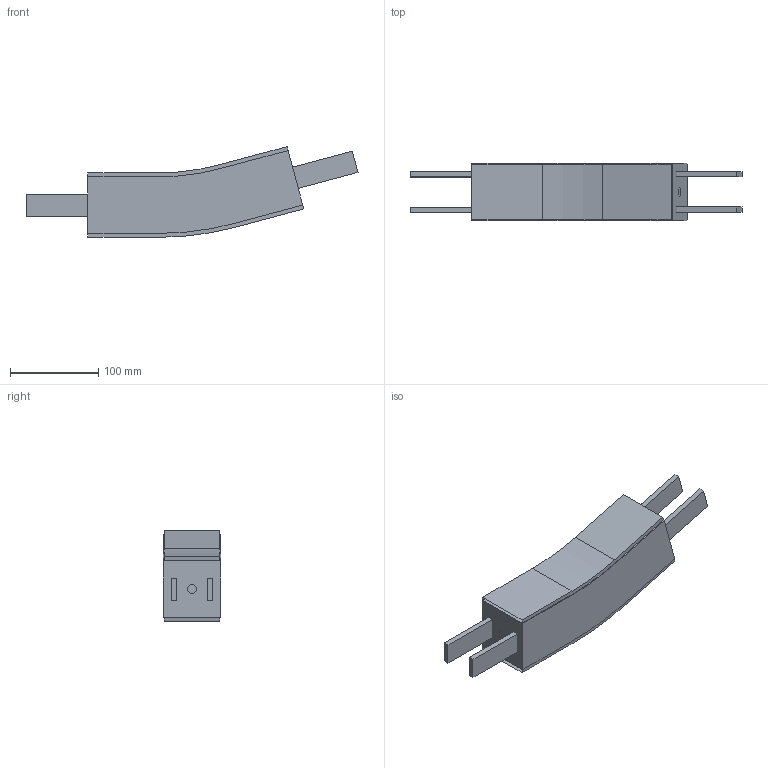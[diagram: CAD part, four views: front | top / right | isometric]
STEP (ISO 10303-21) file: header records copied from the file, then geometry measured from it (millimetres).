
FILE_DESCRIPTION(/* description */ ('Vertikaler Gleitbogen, 15°, R300'),/* implementation_level */ '2;1');
FILE_NAME(/* name */ 'T:\vdz0\Step Daten Website\modulflex FL-System\Vertikale Gleitbögen\FLBV 15R300_43667.stp',/* time_stamp */ '2024-09-03T09:58:41+02:00',/* author */ ('lzb0'),/* organization */ ('modular automation GmbH'),/* preprocessor_version */ 'ST-DEVELOPER v18.1',/* originating_system */ 'Autodesk Inventor 2021',/* authorisation */ '');
FILE_SCHEMA (('AUTOMOTIVE_DESIGN { 1 0 10303 214 3 1 1 }'));
Length unit declared in the file: millimetre
Products named in the file (1): FLBV 15R300
Bounding box: 375.77 x 65 x 102.68 mm (x, y, z)
Volume: 1076325.6 mm3; surface area: 170817.3 mm2
Topology: 5 solids, 9 shells, 52 faces, 126 edges, 84 vertices
Faces by surface type: plane 44, cylinder 8
Full cylindrical faces by diameter (mm): 10 x2
Entity records: 1598 total; most frequent: CARTESIAN_POINT 270, DIRECTION 250, ORIENTED_EDGE 232, EDGE_CURVE 126, LINE 110, VECTOR 110, VERTEX_POINT 84, AXIS2_PLACEMENT_3D 70
